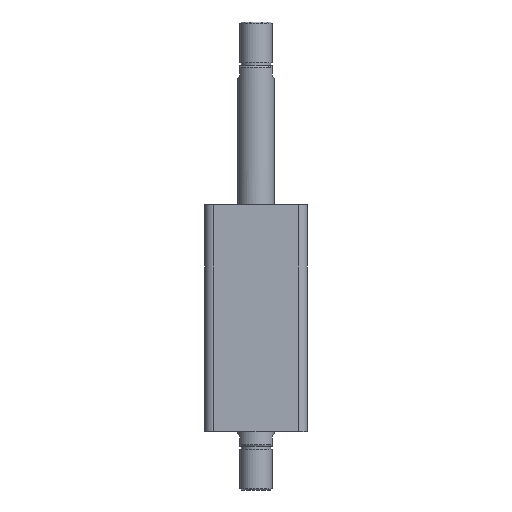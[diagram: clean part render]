
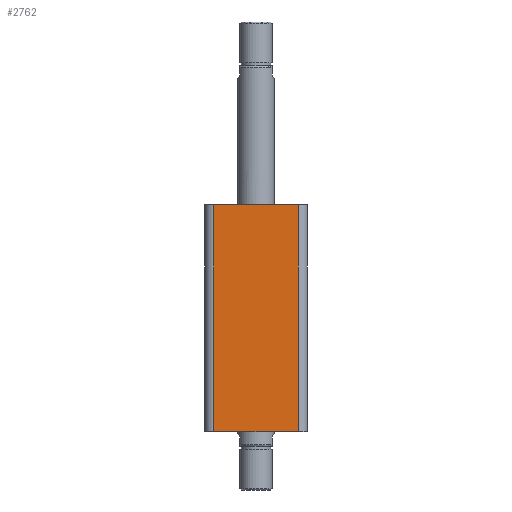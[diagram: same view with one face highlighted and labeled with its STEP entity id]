
A CAD part, front view. The second image highlights one B-rep face of the part: STEP entity #2762.
In plain terms, the highlighted planar face has unit normal (0, -1, 0).
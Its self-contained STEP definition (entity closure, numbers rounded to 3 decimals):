
#41 = CARTESIAN_POINT ( 'NONE',  ( -29., -35., 155. ) ) ;
#50 = CARTESIAN_POINT ( 'NONE',  ( 29., -35., 0. ) ) ;
#51 = CARTESIAN_POINT ( 'NONE',  ( -29., -35., 0. ) ) ;
#196 = EDGE_LOOP ( 'NONE', ( #510, #507, #514, #504 ) ) ;
#302 = VERTEX_POINT ( 'NONE', #41 ) ;
#454 = VERTEX_POINT ( 'NONE', #51 ) ;
#456 = VERTEX_POINT ( 'NONE', #50 ) ;
#472 = VERTEX_POINT ( 'NONE', #488 ) ;
#488 = CARTESIAN_POINT ( 'NONE',  ( 29., -35., 155. ) ) ;
#504 = ORIENTED_EDGE ( 'NONE', *, *, #1067, .T. ) ;
#507 = ORIENTED_EDGE ( 'NONE', *, *, #1069, .T. ) ;
#510 = ORIENTED_EDGE ( 'NONE', *, *, #1070, .F. ) ;
#514 = ORIENTED_EDGE ( 'NONE', *, *, #1068, .T. ) ;
#1067 = EDGE_CURVE ( 'NONE', #456, #472, #3173, .T. ) ;
#1068 = EDGE_CURVE ( 'NONE', #454, #456, #3174, .T. ) ;
#1069 = EDGE_CURVE ( 'NONE', #302, #454, #3177, .T. ) ;
#1070 = EDGE_CURVE ( 'NONE', #302, #472, #3179, .T. ) ;
#1445 = AXIS2_PLACEMENT_3D ( 'NONE', #1858, #1864, #1865 ) ;
#1524 = DIRECTION ( 'NONE',  ( 0., 0., 1. ) ) ;
#1541 = CARTESIAN_POINT ( 'NONE',  ( -35., -35., 0. ) ) ;
#1542 = CARTESIAN_POINT ( 'NONE',  ( 29., -35., 155. ) ) ;
#1546 = DIRECTION ( 'NONE',  ( 1., 0., 0. ) ) ;
#1547 = CARTESIAN_POINT ( 'NONE',  ( -29., -35., 155. ) ) ;
#1548 = DIRECTION ( 'NONE',  ( 0., 0., -1. ) ) ;
#1549 = CARTESIAN_POINT ( 'NONE',  ( -35., -35., 155. ) ) ;
#1550 = DIRECTION ( 'NONE',  ( 1., 0., 0. ) ) ;
#1858 = CARTESIAN_POINT ( 'NONE',  ( -35., -35., 155. ) ) ;
#1862 = PLANE ( 'NONE',  #1445 ) ;
#1864 = DIRECTION ( 'NONE',  ( 0., 1., 0. ) ) ;
#1865 = DIRECTION ( 'NONE',  ( 0., 0., 1. ) ) ;
#2412 = FACE_OUTER_BOUND ( 'NONE', #196, .T. ) ;
#2762 = ADVANCED_FACE ( 'NONE', ( #2412 ), #1862, .F. ) ;
#3173 = LINE ( 'NONE', #1542, #3176 ) ;
#3174 = LINE ( 'NONE', #1541, #3178 ) ;
#3176 = VECTOR ( 'NONE', #1524, 1000. ) ;
#3177 = LINE ( 'NONE', #1547, #3180 ) ;
#3178 = VECTOR ( 'NONE', #1546, 1000. ) ;
#3179 = LINE ( 'NONE', #1549, #3182 ) ;
#3180 = VECTOR ( 'NONE', #1548, 1000. ) ;
#3182 = VECTOR ( 'NONE', #1550, 1000. ) ;
